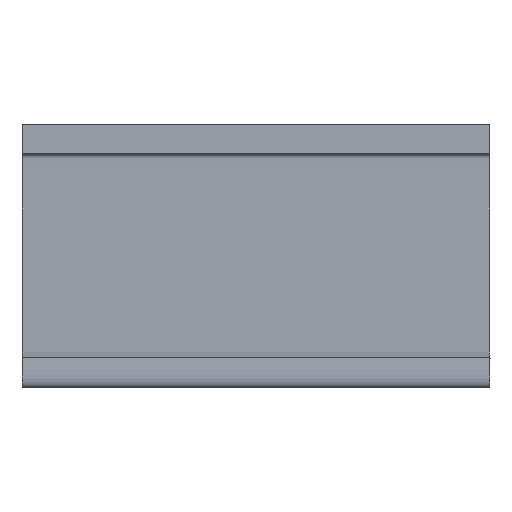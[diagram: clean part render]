
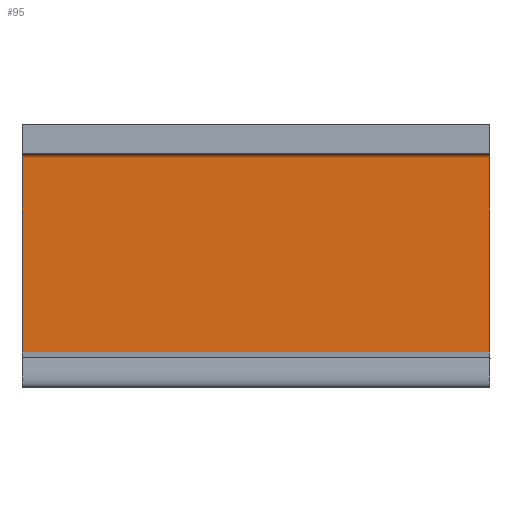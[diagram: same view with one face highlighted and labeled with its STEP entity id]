
A CAD part, left-side view. The second image highlights one B-rep face of the part: STEP entity #95.
In plain terms, the highlighted free-form (B-spline) face has degree [3, 1] with [8, 2] control points.
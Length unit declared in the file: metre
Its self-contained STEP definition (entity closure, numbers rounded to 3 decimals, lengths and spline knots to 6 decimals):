
#13=B_SPLINE_SURFACE_WITH_KNOTS('',3,1,((#244,#245),(#246,#247),(#248,#249),
(#250,#251),(#252,#253),(#254,#255),(#256,#257),(#258,#259)),
 .SURF_OF_LINEAR_EXTRUSION.,.F.,.F.,.F.,(4,1,1,1,1,4),(2,2),(-0.737528,
-0.602073,-0.466618,-0.39889,-0.331163,
-0.195708),(0.,1.),.UNSPECIFIED.);
#16=LINE('',#166,#20);
#20=VECTOR('',#116,1.);
#24=B_SPLINE_CURVE_WITH_KNOTS('',3,(#155,#156,#157,#158,#159,#160,#161,
#162,#163,#164),.UNSPECIFIED.,.F.,.F.,(4,3,1,1,1,4),(-0.731416,
-0.401416,-0.350832,-0.299124,-0.247416,
-0.195708),.UNSPECIFIED.);
#25=B_SPLINE_CURVE_WITH_KNOTS('',3,(#172,#173,#174,#175,#176,#177,#178,
#179,#180,#181),.UNSPECIFIED.,.F.,.F.,(4,3,1,1,1,4),(-0.731416,
-0.401416,-0.350832,-0.299124,-0.247416,
-0.195708),.UNSPECIFIED.);
#28=B_SPLINE_CURVE_WITH_KNOTS('',3,(#240,#241,#242,#243),.UNSPECIFIED.,
 .F.,.F.,(4,4),(0.,0.800231),.UNSPECIFIED.);
#49=ORIENTED_EDGE('',*,*,#64,.F.);
#50=ORIENTED_EDGE('',*,*,#60,.F.);
#51=ORIENTED_EDGE('',*,*,#57,.F.);
#52=ORIENTED_EDGE('',*,*,#56,.F.);
#56=EDGE_CURVE('',#68,#65,#24,.F.);
#57=EDGE_CURVE('',#65,#69,#16,.F.);
#60=EDGE_CURVE('',#69,#71,#25,.T.);
#64=EDGE_CURVE('',#71,#68,#28,.T.);
#65=VERTEX_POINT('',#128);
#68=VERTEX_POINT('',#154);
#69=VERTEX_POINT('',#167);
#71=VERTEX_POINT('',#182);
#80=EDGE_LOOP('',(#49,#50,#51,#52));
#86=FACE_BOUND('',#80,.T.);
#95=ADVANCED_FACE('',(#86),#13,.F.);
#116=DIRECTION('',(0.,-1.,0.));
#128=CARTESIAN_POINT('',(-0.0385,0.00395,-0.02834));
#154=CARTESIAN_POINT('',(-0.0387,0.00395,-0.028));
#155=CARTESIAN_POINT('',(-0.0385,0.00395,-0.02834));
#156=CARTESIAN_POINT('',(-0.0385,0.00395,-0.02823));
#157=CARTESIAN_POINT('',(-0.0385,0.00395,-0.02812));
#158=CARTESIAN_POINT('',(-0.0385,0.00395,-0.02801));
#159=CARTESIAN_POINT('',(-0.0385,0.00395,-0.027994));
#160=CARTESIAN_POINT('',(-0.038554,0.00395,-0.028004));
#161=CARTESIAN_POINT('',(-0.038593,0.00395,-0.027998));
#162=CARTESIAN_POINT('',(-0.038651,0.00395,-0.028001));
#163=CARTESIAN_POINT('',(-0.038683,0.00395,-0.028));
#164=CARTESIAN_POINT('',(-0.0387,0.00395,-0.028));
#166=CARTESIAN_POINT('',(-0.0385,0.00395,-0.028346));
#167=CARTESIAN_POINT('',(-0.0385,0.00475,-0.02834));
#172=CARTESIAN_POINT('',(-0.0385,0.00475,-0.02834));
#173=CARTESIAN_POINT('',(-0.0385,0.00475,-0.02823));
#174=CARTESIAN_POINT('',(-0.0385,0.00475,-0.02812));
#175=CARTESIAN_POINT('',(-0.0385,0.00475,-0.02801));
#176=CARTESIAN_POINT('',(-0.0385,0.00475,-0.027994));
#177=CARTESIAN_POINT('',(-0.038554,0.00475,-0.028004));
#178=CARTESIAN_POINT('',(-0.038593,0.00475,-0.027998));
#179=CARTESIAN_POINT('',(-0.038651,0.00475,-0.028001));
#180=CARTESIAN_POINT('',(-0.038683,0.00475,-0.028));
#181=CARTESIAN_POINT('',(-0.0387,0.00475,-0.028));
#182=CARTESIAN_POINT('',(-0.0387,0.00475,-0.028));
#240=CARTESIAN_POINT('',(-0.0387,0.00475,-0.028));
#241=CARTESIAN_POINT('',(-0.0387,0.004483,-0.028));
#242=CARTESIAN_POINT('',(-0.0387,0.004217,-0.028));
#243=CARTESIAN_POINT('',(-0.0387,0.00395,-0.028));
#244=CARTESIAN_POINT('',(-0.0385,0.00475,-0.028346));
#245=CARTESIAN_POINT('',(-0.0385,0.00395,-0.028346));
#246=CARTESIAN_POINT('',(-0.0385,0.00475,-0.028301));
#247=CARTESIAN_POINT('',(-0.0385,0.00395,-0.028301));
#248=CARTESIAN_POINT('',(-0.038496,0.00475,-0.028207));
#249=CARTESIAN_POINT('',(-0.038496,0.00395,-0.028207));
#250=CARTESIAN_POINT('',(-0.038511,0.00475,-0.028107));
#251=CARTESIAN_POINT('',(-0.038511,0.00395,-0.028107));
#252=CARTESIAN_POINT('',(-0.038482,0.00475,-0.027991));
#253=CARTESIAN_POINT('',(-0.038482,0.00395,-0.027991));
#254=CARTESIAN_POINT('',(-0.038601,0.00475,-0.028007));
#255=CARTESIAN_POINT('',(-0.038601,0.00395,-0.028007));
#256=CARTESIAN_POINT('',(-0.038655,0.00475,-0.028));
#257=CARTESIAN_POINT('',(-0.038655,0.00395,-0.028));
#258=CARTESIAN_POINT('',(-0.0387,0.00475,-0.028));
#259=CARTESIAN_POINT('',(-0.0387,0.00395,-0.028));
